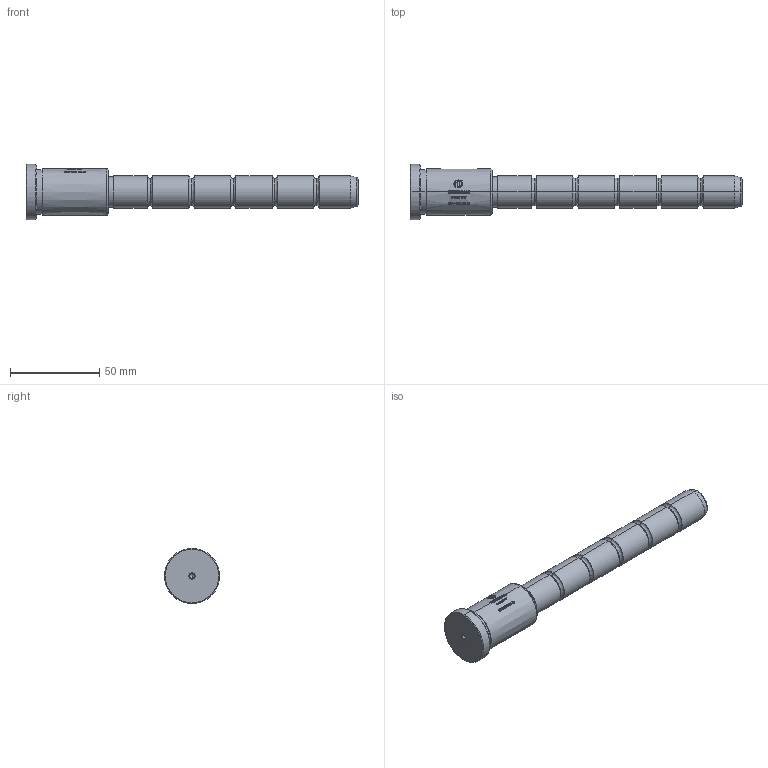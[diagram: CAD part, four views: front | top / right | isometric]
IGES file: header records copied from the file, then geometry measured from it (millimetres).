
Start section: SolidWorks IGES file using analytic representation for surfaces
Global section: file name: C:\Users\User\Downloads\CFM - 08-09\CFM  - Nova\18\CFM18046140.IGS; native system: SolidWorks 2024; preprocessor: SolidWorks 2024; author: User; date: 260909.103317; units: millimetre
Bounding box: 186 x 31 x 31 mm (x, y, z)
Surface area: 13692.7 mm2 (no closed solid volume)
Topology: 0 solids, 0 shells, 515 faces, 4699 edges, 4695 vertices
Faces by surface type: bspline 410, revolution 105
